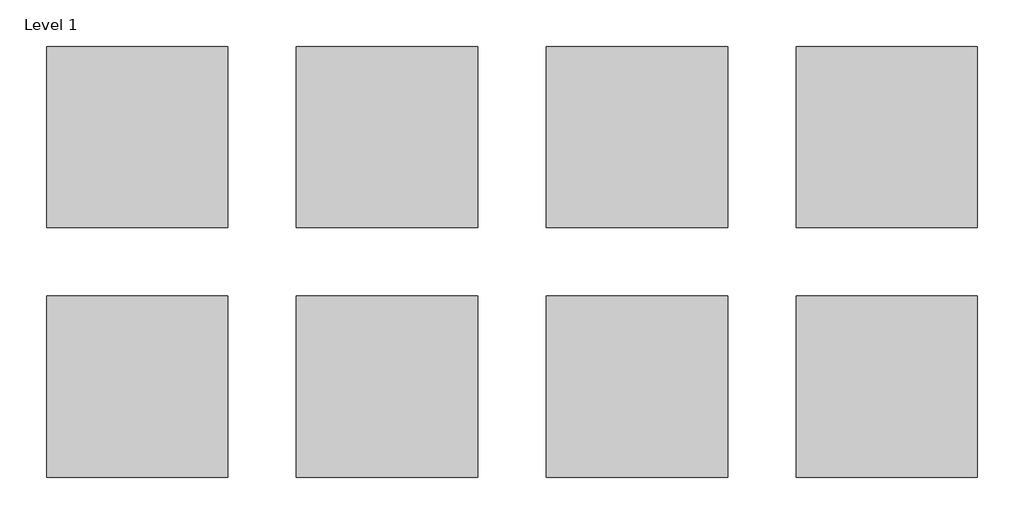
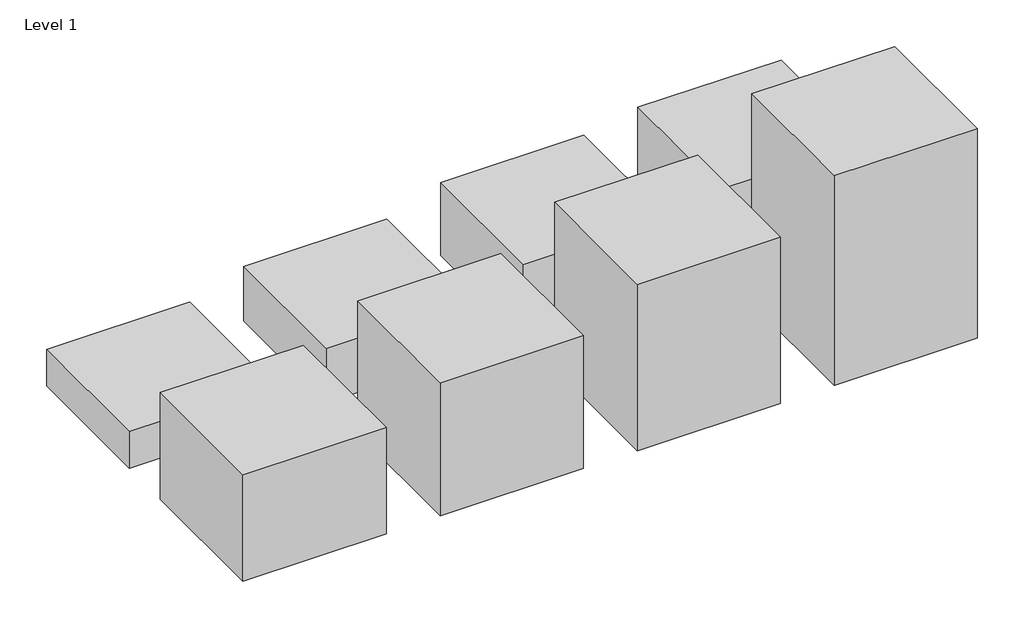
# One storey: 8 proxies.
"""IFC4 building model written with IfcOpenShell, lengths in millimetres."""

from ifc_helpers import new_model, si_unit, origin, place, context, project, spatial, transform, mapped, element, save
from components import generic_models_ba264c56, generic_models_f4c7aa00, generic_models_73243fc5, generic_models_bec805c1, generic_models_bc7bd0ed, generic_models_555014e6, generic_models_c2e66827, generic_models_5e35d0ab

model = new_model("IFC4")

# Units and contexts
model_context = context("Model", 3, world=origin())
ifc_project = project(units=[si_unit("LENGTHUNIT", "METRE", prefix="MILLI")], contexts=[model_context])

# Site, building, storey
site = spatial("IfcSite", under=ifc_project)
building = spatial("IfcBuilding", under=site)
storey = spatial("IfcBuildingStorey", under=building, Name="Level 1", Elevation=0.0)

# Proxies
placement = place(None, origin())
generic_models_shape = generic_models_ba264c56(model_context)
element("IfcBuildingElementProxy", 1, Name="Placeholder_Polyseam : Placeholder_Polyseam", ObjectType="Placeholder_Polyseam : Placeholder_Polyseam", at=placement, inside=storey, context=model_context, shape_type="MappedRepresentation", body=[
    mapped(generic_models_shape, transform((1311.6, 2738.2666667, 0.0), x_axis=(1.0, 0.0, 0.0), y_axis=(0.0, 1.0, 0.0), z_axis=(0.0, 0.0, 1.0))),
])
generic_models_2_shape = generic_models_f4c7aa00(model_context)
element("IfcBuildingElementProxy", 2, Name="Placeholder_Polyseam : Placeholder_Polyseam", ObjectType="Placeholder_Polyseam : Placeholder_Polyseam", at=placement, inside=storey, context=model_context, shape_type="MappedRepresentation", body=[
    mapped(generic_models_2_shape, transform((1591.6, 2738.2666667, 0.0), x_axis=(1.0, 0.0, 0.0), y_axis=(0.0, 1.0, 0.0), z_axis=(0.0, 0.0, 1.0))),
])
generic_models_3_shape = generic_models_73243fc5(model_context)
element("IfcBuildingElementProxy", 3, Name="Placeholder_Polyseam : Placeholder_Polyseam", ObjectType="Placeholder_Polyseam : Placeholder_Polyseam", at=placement, inside=storey, context=model_context, shape_type="MappedRepresentation", body=[
    mapped(generic_models_3_shape, transform((1871.6, 2738.2666667, 0.0), x_axis=(1.0, 0.0, 0.0), y_axis=(0.0, 1.0, 0.0), z_axis=(0.0, 0.0, 1.0))),
])
generic_models_4_shape = generic_models_bec805c1(model_context)
element("IfcBuildingElementProxy", 4, Name="Placeholder_Polyseam : Placeholder_Polyseam", ObjectType="Placeholder_Polyseam : Placeholder_Polyseam", at=placement, inside=storey, context=model_context, shape_type="MappedRepresentation", body=[
    mapped(generic_models_4_shape, transform((2151.6, 2738.2666667, 0.0), x_axis=(1.0, 0.0, 0.0), y_axis=(0.0, 1.0, 0.0), z_axis=(0.0, 0.0, 1.0))),
])
generic_models_5_shape = generic_models_bc7bd0ed(model_context)
element("IfcBuildingElementProxy", 5, Name="Placeholder_Polyseam : Placeholder_Polyseam", ObjectType="Placeholder_Polyseam : Placeholder_Polyseam", at=placement, inside=storey, context=model_context, shape_type="MappedRepresentation", body=[
    mapped(generic_models_5_shape, transform((1311.6, 2458.2666667, 0.0), x_axis=(1.0, 0.0, 0.0), y_axis=(0.0, 1.0, 0.0), z_axis=(0.0, 0.0, 1.0))),
])
generic_models_6_shape = generic_models_555014e6(model_context)
element("IfcBuildingElementProxy", 6, Name="Placeholder_Polyseam : Placeholder_Polyseam", ObjectType="Placeholder_Polyseam : Placeholder_Polyseam", at=placement, inside=storey, context=model_context, shape_type="MappedRepresentation", body=[
    mapped(generic_models_6_shape, transform((1591.6, 2458.2666667, 0.0), x_axis=(1.0, 0.0, 0.0), y_axis=(0.0, 1.0, 0.0), z_axis=(0.0, 0.0, 1.0))),
])
generic_models_7_shape = generic_models_c2e66827(model_context)
element("IfcBuildingElementProxy", 7, Name="Placeholder_Polyseam : Placeholder_Polyseam", ObjectType="Placeholder_Polyseam : Placeholder_Polyseam", at=placement, inside=storey, context=model_context, shape_type="MappedRepresentation", body=[
    mapped(generic_models_7_shape, transform((1871.6, 2458.2666667, 0.0), x_axis=(1.0, 0.0, 0.0), y_axis=(0.0, 1.0, 0.0), z_axis=(0.0, 0.0, 1.0))),
])
generic_models_8_shape = generic_models_5e35d0ab(model_context)
element("IfcBuildingElementProxy", 8, Name="Placeholder_Polyseam : Placeholder_Polyseam", ObjectType="Placeholder_Polyseam : Placeholder_Polyseam", at=placement, inside=storey, context=model_context, shape_type="MappedRepresentation", body=[
    mapped(generic_models_8_shape, transform((2151.6, 2458.2666667, 0.0), x_axis=(1.0, 0.0, 0.0), y_axis=(0.0, 1.0, 0.0), z_axis=(0.0, 0.0, 1.0))),
])

save(model, "model.ifc")
